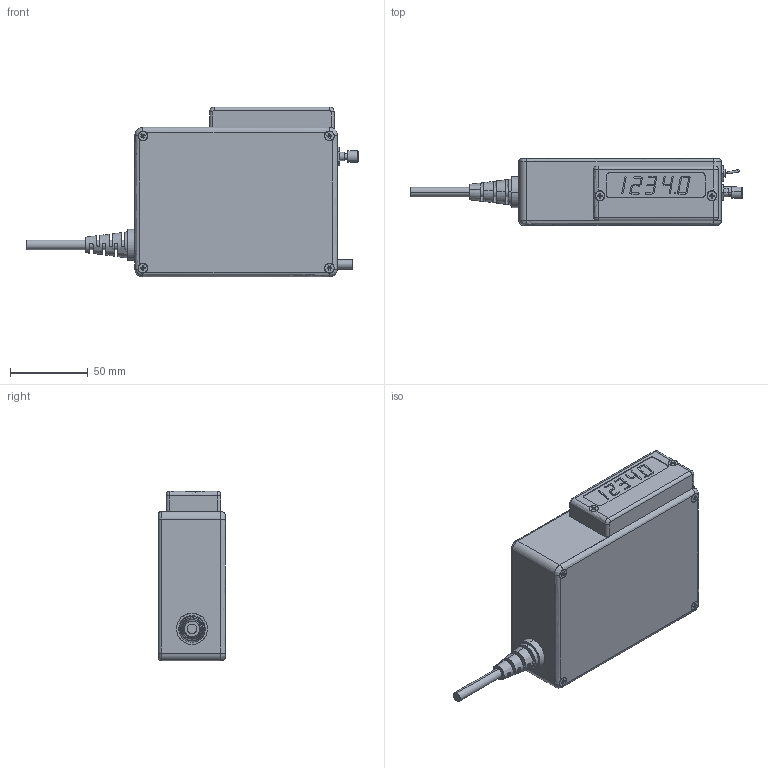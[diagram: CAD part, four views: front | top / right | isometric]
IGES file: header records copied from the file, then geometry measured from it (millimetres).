
Start section: SolidWorks IGES file using analytic representation for surfaces
Bounding box: 213.33 x 43 x 109 mm (x, y, z)
Surface area: 77692 mm2 (no closed solid volume)
Topology: 0 solids, 0 shells, 648 faces, 8005 edges, 8004 vertices
Faces by surface type: bspline 419, revolution 229
